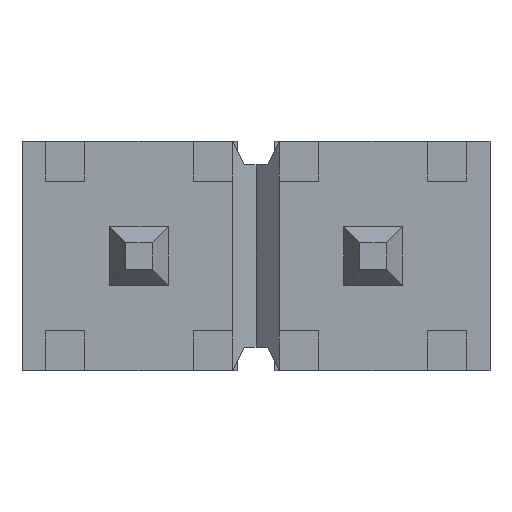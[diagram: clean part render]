
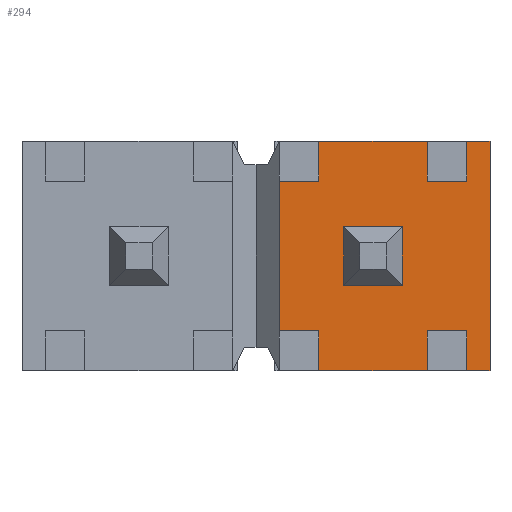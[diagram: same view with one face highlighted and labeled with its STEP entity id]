
A CAD part, front view. The second image highlights one B-rep face of the part: STEP entity #294.
In plain terms, the highlighted planar face has unit normal (0, -1, 0).
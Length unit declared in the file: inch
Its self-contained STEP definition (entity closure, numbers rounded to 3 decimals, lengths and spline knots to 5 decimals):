
#294 = ADVANCED_FACE( '', ( #608, #609 ), #610, .T. );
#608 = FACE_OUTER_BOUND( '', #948, .T. );
#609 = FACE_BOUND( '', #949, .T. );
#610 = PLANE( '', #950 );
#948 = EDGE_LOOP( '', ( #1646, #1647, #1648, #1649, #1650, #1651, #1652, #1653, #1654, #1655, #1656, #1657, #1658, #1659, #1660, #1661 ) );
#949 = EDGE_LOOP( '', ( #1662, #1663, #1664, #1665 ) );
#950 = AXIS2_PLACEMENT_3D( '', #1666, #1667, #1668 );
#1646 = ORIENTED_EDGE( '', *, *, #2149, .T. );
#1647 = ORIENTED_EDGE( '', *, *, #2207, .T. );
#1648 = ORIENTED_EDGE( '', *, *, #2089, .T. );
#1649 = ORIENTED_EDGE( '', *, *, #2164, .T. );
#1650 = ORIENTED_EDGE( '', *, *, #2337, .F. );
#1651 = ORIENTED_EDGE( '', *, *, #2205, .T. );
#1652 = ORIENTED_EDGE( '', *, *, #2230, .T. );
#1653 = ORIENTED_EDGE( '', *, *, #2325, .T. );
#1654 = ORIENTED_EDGE( '', *, *, #2300, .F. );
#1655 = ORIENTED_EDGE( '', *, *, #2213, .F. );
#1656 = ORIENTED_EDGE( '', *, *, #2338, .T. );
#1657 = ORIENTED_EDGE( '', *, *, #2243, .T. );
#1658 = ORIENTED_EDGE( '', *, *, #2339, .F. );
#1659 = ORIENTED_EDGE( '', *, *, #2340, .F. );
#1660 = ORIENTED_EDGE( '', *, *, #2341, .T. );
#1661 = ORIENTED_EDGE( '', *, *, #2240, .T. );
#1662 = ORIENTED_EDGE( '', *, *, #2265, .F. );
#1663 = ORIENTED_EDGE( '', *, *, #2342, .F. );
#1664 = ORIENTED_EDGE( '', *, *, #2276, .F. );
#1665 = ORIENTED_EDGE( '', *, *, #2167, .F. );
#1666 = CARTESIAN_POINT( '', ( 0.13637, 0.02, 0.098 ) );
#1667 = DIRECTION( '', ( 0., -1., 0. ) );
#1668 = DIRECTION( '', ( 1., 0., 0. ) );
#2089 = EDGE_CURVE( '', #2494, #2492, #2495, .T. );
#2149 = EDGE_CURVE( '', #2600, #2601, #2602, .T. );
#2164 = EDGE_CURVE( '', #2492, #2623, #2625, .T. );
#2167 = EDGE_CURVE( '', #2627, #2629, #2630, .T. );
#2205 = EDGE_CURVE( '', #2687, #2685, #2688, .T. );
#2207 = EDGE_CURVE( '', #2601, #2494, #2690, .T. );
#2213 = EDGE_CURVE( '', #2697, #2615, #2699, .T. );
#2230 = EDGE_CURVE( '', #2685, #2726, #2728, .T. );
#2240 = EDGE_CURVE( '', #2744, #2600, #2745, .T. );
#2243 = EDGE_CURVE( '', #2749, #2747, #2750, .T. );
#2265 = EDGE_CURVE( '', #2778, #2627, #2780, .T. );
#2276 = EDGE_CURVE( '', #2629, #2795, #2796, .T. );
#2300 = EDGE_CURVE( '', #2615, #2799, #2829, .T. );
#2325 = EDGE_CURVE( '', #2726, #2799, #2858, .T. );
#2337 = EDGE_CURVE( '', #2687, #2623, #2874, .T. );
#2338 = EDGE_CURVE( '', #2697, #2749, #2875, .T. );
#2339 = EDGE_CURVE( '', #2876, #2747, #2877, .T. );
#2340 = EDGE_CURVE( '', #2878, #2876, #2879, .T. );
#2341 = EDGE_CURVE( '', #2878, #2744, #2880, .T. );
#2342 = EDGE_CURVE( '', #2795, #2778, #2881, .T. );
#2492 = VERTEX_POINT( '', #3068 );
#2494 = VERTEX_POINT( '', #3071 );
#2495 = LINE( '', #3072, #3073 );
#2600 = VERTEX_POINT( '', #3228 );
#2601 = VERTEX_POINT( '', #3229 );
#2602 = LINE( '', #3230, #3231 );
#2615 = VERTEX_POINT( '', #3250 );
#2623 = VERTEX_POINT( '', #3262 );
#2625 = LINE( '', #3265, #3266 );
#2627 = VERTEX_POINT( '', #3268 );
#2629 = VERTEX_POINT( '', #3271 );
#2630 = LINE( '', #3272, #3273 );
#2685 = VERTEX_POINT( '', #3356 );
#2687 = VERTEX_POINT( '', #3359 );
#2688 = LINE( '', #3360, #3361 );
#2690 = LINE( '', #3364, #3365 );
#2697 = VERTEX_POINT( '', #3375 );
#2699 = LINE( '', #3378, #3379 );
#2726 = VERTEX_POINT( '', #3418 );
#2728 = LINE( '', #3421, #3422 );
#2744 = VERTEX_POINT( '', #3445 );
#2745 = LINE( '', #3446, #3447 );
#2747 = VERTEX_POINT( '', #3450 );
#2749 = VERTEX_POINT( '', #3453 );
#2750 = LINE( '', #3454, #3455 );
#2778 = VERTEX_POINT( '', #3497 );
#2780 = LINE( '', #3500, #3501 );
#2795 = VERTEX_POINT( '', #3523 );
#2796 = LINE( '', #3524, #3525 );
#2799 = VERTEX_POINT( '', #3529 );
#2829 = LINE( '', #3575, #3576 );
#2858 = LINE( '', #3620, #3621 );
#2874 = LINE( '', #3645, #3646 );
#2875 = LINE( '', #3647, #3648 );
#2876 = VERTEX_POINT( '', #3649 );
#2877 = LINE( '', #3650, #3651 );
#2878 = VERTEX_POINT( '', #3652 );
#2879 = LINE( '', #3653, #3654 );
#2880 = LINE( '', #3655, #3656 );
#2881 = LINE( '', #3657, #3658 );
#3068 = CARTESIAN_POINT( '', ( 0.09012, 0.02, 0.032 ) );
#3071 = CARTESIAN_POINT( '', ( 0.09012, 0.02, 0.049 ) );
#3072 = CARTESIAN_POINT( '', ( 0.09012, 0.02, 0.098 ) );
#3073 = VECTOR( '', #3823, 39.37008 );
#3228 = CARTESIAN_POINT( '', ( 0.1, 0.02, -0.049 ) );
#3229 = CARTESIAN_POINT( '', ( 0.1, 0.02, 0.049 ) );
#3230 = CARTESIAN_POINT( '', ( 0.1, 0.02, 0.049 ) );
#3231 = VECTOR( '', #3874, 39.37008 );
#3250 = CARTESIAN_POINT( '', ( 0.01, 0.02, -0.032 ) );
#3262 = CARTESIAN_POINT( '', ( 0.07312, 0.02, 0.032 ) );
#3265 = CARTESIAN_POINT( '', ( 0.2, 0.02, 0.032 ) );
#3266 = VECTOR( '', #3886, 39.37008 );
#3268 = CARTESIAN_POINT( '', ( 0.0375, 0.02, -0.0125 ) );
#3271 = CARTESIAN_POINT( '', ( 0.0625, 0.02, -0.0125 ) );
#3272 = CARTESIAN_POINT( '', ( 0.0625, 0.02, -0.0125 ) );
#3273 = VECTOR( '', #3888, 39.37008 );
#3356 = CARTESIAN_POINT( '', ( 0.02688, 0.02, 0.049 ) );
#3359 = CARTESIAN_POINT( '', ( 0.07312, 0.02, 0.049 ) );
#3360 = CARTESIAN_POINT( '', ( -0.1, 0.02, 0.049 ) );
#3361 = VECTOR( '', #3918, 39.37008 );
#3364 = CARTESIAN_POINT( '', ( -0.1, 0.02, 0.049 ) );
#3365 = VECTOR( '', #3920, 39.37008 );
#3375 = CARTESIAN_POINT( '', ( 0.02688, 0.02, -0.032 ) );
#3378 = CARTESIAN_POINT( '', ( 0.2, 0.02, -0.032 ) );
#3379 = VECTOR( '', #3925, 39.37008 );
#3418 = CARTESIAN_POINT( '', ( 0.02688, 0.02, 0.032 ) );
#3421 = CARTESIAN_POINT( '', ( 0.02688, 0.02, 0.098 ) );
#3422 = VECTOR( '', #3939, 39.37008 );
#3445 = CARTESIAN_POINT( '', ( 0.09012, 0.02, -0.049 ) );
#3446 = CARTESIAN_POINT( '', ( 0.1, 0.02, -0.049 ) );
#3447 = VECTOR( '', #3947, 39.37008 );
#3450 = CARTESIAN_POINT( '', ( 0.07312, 0.02, -0.049 ) );
#3453 = CARTESIAN_POINT( '', ( 0.02688, 0.02, -0.049 ) );
#3454 = CARTESIAN_POINT( '', ( 0.1, 0.02, -0.049 ) );
#3455 = VECTOR( '', #3950, 39.37008 );
#3497 = CARTESIAN_POINT( '', ( 0.0375, 0.02, 0.0125 ) );
#3500 = CARTESIAN_POINT( '', ( 0.0375, 0.02, -0.0125 ) );
#3501 = VECTOR( '', #3966, 39.37008 );
#3523 = CARTESIAN_POINT( '', ( 0.0625, 0.02, 0.0125 ) );
#3524 = CARTESIAN_POINT( '', ( 0.0625, 0.02, 0.0125 ) );
#3525 = VECTOR( '', #3974, 39.37008 );
#3529 = CARTESIAN_POINT( '', ( 0.01, 0.02, 0.032 ) );
#3575 = CARTESIAN_POINT( '', ( 0.01, 0.02, 0.2 ) );
#3576 = VECTOR( '', #3992, 39.37008 );
#3620 = CARTESIAN_POINT( '', ( 0.2, 0.02, 0.032 ) );
#3621 = VECTOR( '', #4008, 39.37008 );
#3645 = CARTESIAN_POINT( '', ( 0.07312, 0.02, 0.098 ) );
#3646 = VECTOR( '', #4017, 39.37008 );
#3647 = CARTESIAN_POINT( '', ( 0.02688, 0.02, 0.098 ) );
#3648 = VECTOR( '', #4018, 39.37008 );
#3649 = CARTESIAN_POINT( '', ( 0.07312, 0.02, -0.032 ) );
#3650 = CARTESIAN_POINT( '', ( 0.07312, 0.02, 0.098 ) );
#3651 = VECTOR( '', #4019, 39.37008 );
#3652 = CARTESIAN_POINT( '', ( 0.09012, 0.02, -0.032 ) );
#3653 = CARTESIAN_POINT( '', ( 0.2, 0.02, -0.032 ) );
#3654 = VECTOR( '', #4020, 39.37008 );
#3655 = CARTESIAN_POINT( '', ( 0.09012, 0.02, 0.098 ) );
#3656 = VECTOR( '', #4021, 39.37008 );
#3657 = CARTESIAN_POINT( '', ( 0.0375, 0.02, 0.0125 ) );
#3658 = VECTOR( '', #4022, 39.37008 );
#3823 = DIRECTION( '', ( 0., 0., -1. ) );
#3874 = DIRECTION( '', ( 0., 0., 1. ) );
#3886 = DIRECTION( '', ( -1., 0., 0. ) );
#3888 = DIRECTION( '', ( 1., 0., 0. ) );
#3918 = DIRECTION( '', ( -1., 0., 0. ) );
#3920 = DIRECTION( '', ( -1., 0., 0. ) );
#3925 = DIRECTION( '', ( -1., 0., 0. ) );
#3939 = DIRECTION( '', ( 0., 0., -1. ) );
#3947 = DIRECTION( '', ( 1., 0., 0. ) );
#3950 = DIRECTION( '', ( 1., 0., 0. ) );
#3966 = DIRECTION( '', ( 0., 0., -1. ) );
#3974 = DIRECTION( '', ( 0., 0., 1. ) );
#3992 = DIRECTION( '', ( 0., 0., 1. ) );
#4008 = DIRECTION( '', ( -1., 0., 0. ) );
#4017 = DIRECTION( '', ( 0., 0., -1. ) );
#4018 = DIRECTION( '', ( 0., 0., -1. ) );
#4019 = DIRECTION( '', ( 0., 0., -1. ) );
#4020 = DIRECTION( '', ( -1., 0., 0. ) );
#4021 = DIRECTION( '', ( 0., 0., -1. ) );
#4022 = DIRECTION( '', ( -1., 0., 0. ) );
